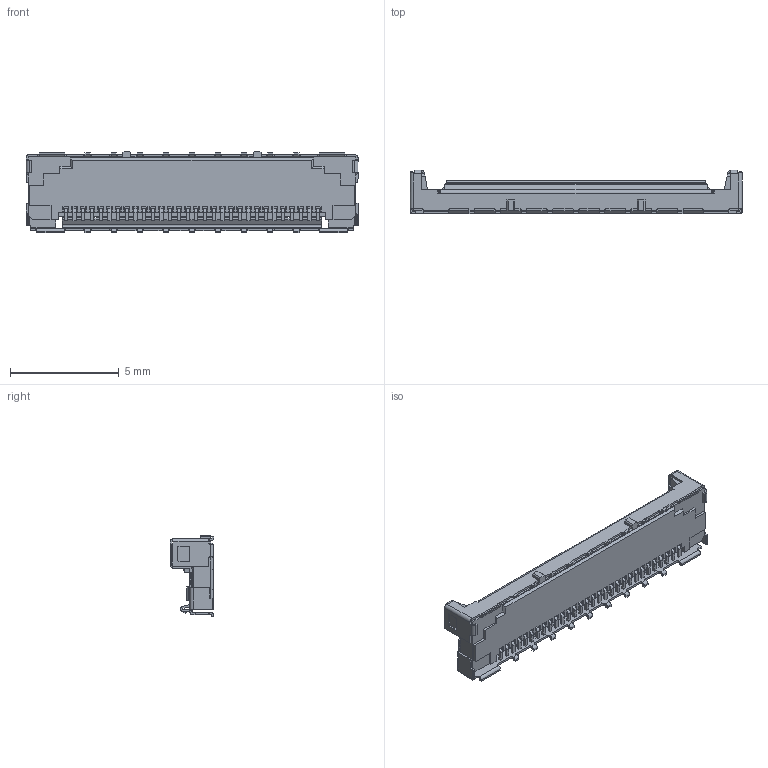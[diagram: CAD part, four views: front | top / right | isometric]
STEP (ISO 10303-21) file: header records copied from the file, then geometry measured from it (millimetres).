
FILE_DESCRIPTION (( 'STEP AP203' ), '1' );
FILE_NAME ('20879-030ExxxC RECE ASSY C VerSTEP ALL 180630.STEP', '2018-08-31T15:23:20', ( '' ), ( '' ), 'SwSTEP 2.0', 'SolidWorks 2017', '' );
FILE_SCHEMA (( 'CONFIG_CONTROL_DESIGN' ));
Length unit declared in the file: millimetre
Products named in the file (1): 20879-030ExxxC RECE ASSY C VerSTEP ALL 180630
Bounding box: 15.27 x 2 x 3.77 mm (x, y, z)
Volume: 50.6 mm3; surface area: 241.8 mm2
Topology: 1 solids, 1 shells, 1305 faces, 3786 edges, 2498 vertices
Faces by surface type: plane 1040, cylinder 265
Entity records: 42791 total; most frequent: CARTESIAN_POINT 8468, ORIENTED_EDGE 7572, DIRECTION 6473, EDGE_CURVE 3786, VECTOR 3195, LINE 3195, VERTEX_POINT 2498, AXIS2_PLACEMENT_3D 1639
